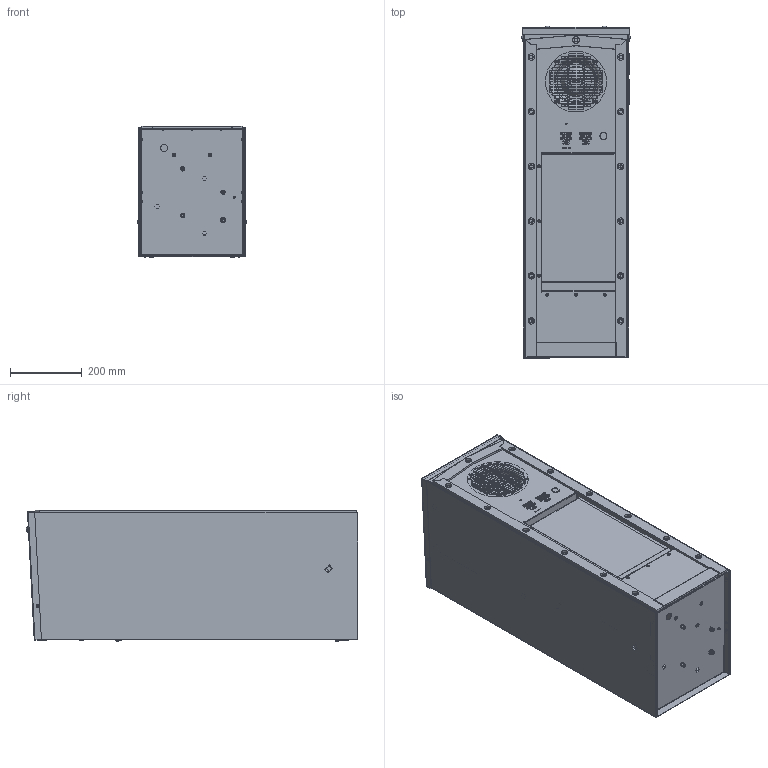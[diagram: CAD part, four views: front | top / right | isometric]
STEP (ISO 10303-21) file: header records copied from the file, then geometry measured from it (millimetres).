
FILE_DESCRIPTION (( 'STEP AP203' ), '1' );
FILE_NAME ('DTS 5341 Display.STEP', '2026-04-24T20:46:10', ( '' ), ( '' ), 'SwSTEP 2.0', 'SolidWorks 2024', '' );
FILE_SCHEMA (( 'CONFIG_CONTROL_DESIGN' ));
Products named in the file (1): DTS 5341 Display
Bounding box: 306.6 x 925.05 x 366.96 mm (x, y, z)
Surface area: 3714929.2 mm2 (no closed solid volume)
Topology: 0 solids, 463 shells, 2113 faces, 15677 edges, 13652 vertices
Faces by surface type: plane 1230, cylinder 564, torus 128, cone 112, bspline 57, sphere 22
Entity records: 189611 total; most frequent: CARTESIAN_POINT 80485, ORIENTED_EDGE 19302, DIRECTION 18888, EDGE_CURVE 15651, VERTEX_POINT 13637, VECTOR 9858, LINE 9858, AXIS2_PLACEMENT_3D 4515
